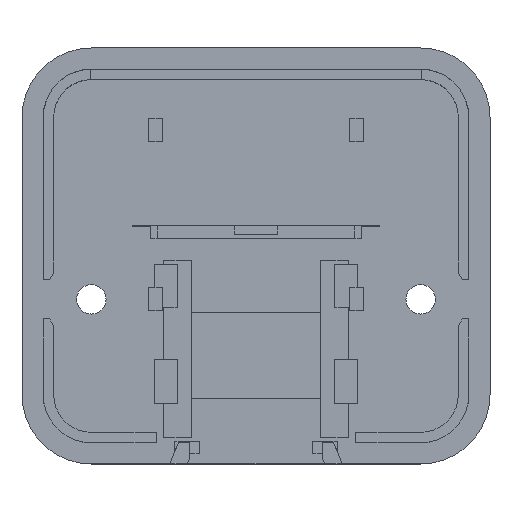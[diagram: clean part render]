
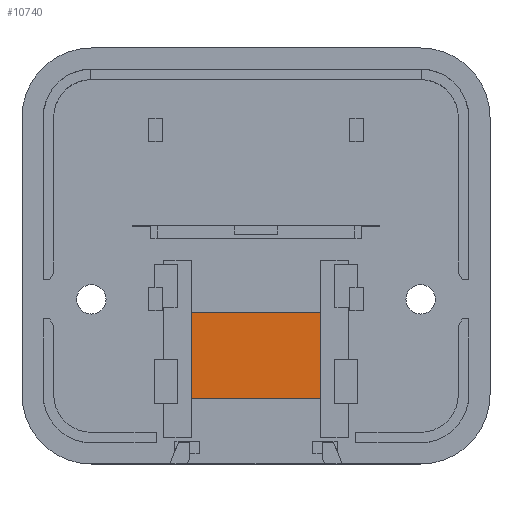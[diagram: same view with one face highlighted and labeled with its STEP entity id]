
A CAD part, top view. The second image highlights one B-rep face of the part: STEP entity #10740.
In plain terms, the highlighted planar face has unit normal (0, 0, 1).
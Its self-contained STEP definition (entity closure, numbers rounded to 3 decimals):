
#1747 = PLANE('',#1748);
#1748 = AXIS2_PLACEMENT_3D('',#1749,#1750,#1751);
#1749 = CARTESIAN_POINT('',(-7.5,-6.5,1.));
#1750 = DIRECTION('',(0.,1.,0.));
#1751 = DIRECTION('',(0.,0.,1.));
#2244 = PLANE('',#2245);
#2245 = AXIS2_PLACEMENT_3D('',#2246,#2247,#2248);
#2246 = CARTESIAN_POINT('',(-7.5,-16.5,1.));
#2247 = DIRECTION('',(0.,1.,0.));
#2248 = DIRECTION('',(0.,0.,1.));
#5702 = EDGE_CURVE('',#5703,#5705,#5707,.T.);
#5703 = VERTEX_POINT('',#5704);
#5704 = CARTESIAN_POINT('',(-7.5,-16.5,1.));
#5705 = VERTEX_POINT('',#5706);
#5706 = CARTESIAN_POINT('',(7.5,-16.5,1.));
#5707 = SURFACE_CURVE('',#5708,(#5712,#5719),.PCURVE_S1.);
#5708 = LINE('',#5709,#5710);
#5709 = CARTESIAN_POINT('',(-7.5,-16.5,1.));
#5710 = VECTOR('',#5711,1.);
#5711 = DIRECTION('',(1.,0.,0.));
#5712 = PCURVE('',#2244,#5713);
#5713 = DEFINITIONAL_REPRESENTATION('',(#5714),#5718);
#5714 = LINE('',#5715,#5716);
#5715 = CARTESIAN_POINT('',(0.,0.));
#5716 = VECTOR('',#5717,1.);
#5717 = DIRECTION('',(0.,1.));
#5718 = ( GEOMETRIC_REPRESENTATION_CONTEXT(2) 
PARAMETRIC_REPRESENTATION_CONTEXT() REPRESENTATION_CONTEXT('2D SPACE',''
  ) );
#5719 = PCURVE('',#5720,#5725);
#5720 = PLANE('',#5721);
#5721 = AXIS2_PLACEMENT_3D('',#5722,#5723,#5724);
#5722 = CARTESIAN_POINT('',(-7.5,-16.5,1.));
#5723 = DIRECTION('',(0.,0.,1.));
#5724 = DIRECTION('',(1.,0.,0.));
#5725 = DEFINITIONAL_REPRESENTATION('',(#5726),#5730);
#5726 = LINE('',#5727,#5728);
#5727 = CARTESIAN_POINT('',(0.,0.));
#5728 = VECTOR('',#5729,1.);
#5729 = DIRECTION('',(1.,0.));
#5730 = ( GEOMETRIC_REPRESENTATION_CONTEXT(2) 
PARAMETRIC_REPRESENTATION_CONTEXT() REPRESENTATION_CONTEXT('2D SPACE',''
  ) );
#5748 = PLANE('',#5749);
#5749 = AXIS2_PLACEMENT_3D('',#5750,#5751,#5752);
#5750 = CARTESIAN_POINT('',(-7.5,-16.5,1.));
#5751 = DIRECTION('',(1.,0.,0.));
#5752 = DIRECTION('',(0.,0.,1.));
#5824 = PLANE('',#5825);
#5825 = AXIS2_PLACEMENT_3D('',#5826,#5827,#5828);
#5826 = CARTESIAN_POINT('',(7.5,-16.5,1.));
#5827 = DIRECTION('',(1.,0.,0.));
#5828 = DIRECTION('',(0.,0.,1.));
#7793 = EDGE_CURVE('',#7794,#7796,#7798,.T.);
#7794 = VERTEX_POINT('',#7795);
#7795 = CARTESIAN_POINT('',(-7.5,-6.5,1.));
#7796 = VERTEX_POINT('',#7797);
#7797 = CARTESIAN_POINT('',(7.5,-6.5,1.));
#7798 = SURFACE_CURVE('',#7799,(#7803,#7810),.PCURVE_S1.);
#7799 = LINE('',#7800,#7801);
#7800 = CARTESIAN_POINT('',(-7.5,-6.5,1.));
#7801 = VECTOR('',#7802,1.);
#7802 = DIRECTION('',(1.,0.,0.));
#7803 = PCURVE('',#1747,#7804);
#7804 = DEFINITIONAL_REPRESENTATION('',(#7805),#7809);
#7805 = LINE('',#7806,#7807);
#7806 = CARTESIAN_POINT('',(0.,0.));
#7807 = VECTOR('',#7808,1.);
#7808 = DIRECTION('',(0.,1.));
#7809 = ( GEOMETRIC_REPRESENTATION_CONTEXT(2) 
PARAMETRIC_REPRESENTATION_CONTEXT() REPRESENTATION_CONTEXT('2D SPACE',''
  ) );
#7810 = PCURVE('',#5720,#7811);
#7811 = DEFINITIONAL_REPRESENTATION('',(#7812),#7816);
#7812 = LINE('',#7813,#7814);
#7813 = CARTESIAN_POINT('',(0.,10.));
#7814 = VECTOR('',#7815,1.);
#7815 = DIRECTION('',(1.,0.));
#7816 = ( GEOMETRIC_REPRESENTATION_CONTEXT(2) 
PARAMETRIC_REPRESENTATION_CONTEXT() REPRESENTATION_CONTEXT('2D SPACE',''
  ) );
#10740 = ADVANCED_FACE('',(#10741),#5720,.T.);
#10741 = FACE_BOUND('',#10742,.T.);
#10742 = EDGE_LOOP('',(#10743,#10764,#10765,#10786));
#10743 = ORIENTED_EDGE('',*,*,#10744,.F.);
#10744 = EDGE_CURVE('',#5703,#7794,#10745,.T.);
#10745 = SURFACE_CURVE('',#10746,(#10750,#10757),.PCURVE_S1.);
#10746 = LINE('',#10747,#10748);
#10747 = CARTESIAN_POINT('',(-7.5,-16.5,1.));
#10748 = VECTOR('',#10749,1.);
#10749 = DIRECTION('',(0.,1.,0.));
#10750 = PCURVE('',#5720,#10751);
#10751 = DEFINITIONAL_REPRESENTATION('',(#10752),#10756);
#10752 = LINE('',#10753,#10754);
#10753 = CARTESIAN_POINT('',(0.,0.));
#10754 = VECTOR('',#10755,1.);
#10755 = DIRECTION('',(0.,1.));
#10756 = ( GEOMETRIC_REPRESENTATION_CONTEXT(2) 
PARAMETRIC_REPRESENTATION_CONTEXT() REPRESENTATION_CONTEXT('2D SPACE',''
  ) );
#10757 = PCURVE('',#5748,#10758);
#10758 = DEFINITIONAL_REPRESENTATION('',(#10759),#10763);
#10759 = LINE('',#10760,#10761);
#10760 = CARTESIAN_POINT('',(0.,0.));
#10761 = VECTOR('',#10762,1.);
#10762 = DIRECTION('',(0.,-1.));
#10763 = ( GEOMETRIC_REPRESENTATION_CONTEXT(2) 
PARAMETRIC_REPRESENTATION_CONTEXT() REPRESENTATION_CONTEXT('2D SPACE',''
  ) );
#10764 = ORIENTED_EDGE('',*,*,#5702,.T.);
#10765 = ORIENTED_EDGE('',*,*,#10766,.T.);
#10766 = EDGE_CURVE('',#5705,#7796,#10767,.T.);
#10767 = SURFACE_CURVE('',#10768,(#10772,#10779),.PCURVE_S1.);
#10768 = LINE('',#10769,#10770);
#10769 = CARTESIAN_POINT('',(7.5,-16.5,1.));
#10770 = VECTOR('',#10771,1.);
#10771 = DIRECTION('',(0.,1.,0.));
#10772 = PCURVE('',#5720,#10773);
#10773 = DEFINITIONAL_REPRESENTATION('',(#10774),#10778);
#10774 = LINE('',#10775,#10776);
#10775 = CARTESIAN_POINT('',(15.,0.));
#10776 = VECTOR('',#10777,1.);
#10777 = DIRECTION('',(0.,1.));
#10778 = ( GEOMETRIC_REPRESENTATION_CONTEXT(2) 
PARAMETRIC_REPRESENTATION_CONTEXT() REPRESENTATION_CONTEXT('2D SPACE',''
  ) );
#10779 = PCURVE('',#5824,#10780);
#10780 = DEFINITIONAL_REPRESENTATION('',(#10781),#10785);
#10781 = LINE('',#10782,#10783);
#10782 = CARTESIAN_POINT('',(0.,0.));
#10783 = VECTOR('',#10784,1.);
#10784 = DIRECTION('',(0.,-1.));
#10785 = ( GEOMETRIC_REPRESENTATION_CONTEXT(2) 
PARAMETRIC_REPRESENTATION_CONTEXT() REPRESENTATION_CONTEXT('2D SPACE',''
  ) );
#10786 = ORIENTED_EDGE('',*,*,#7793,.F.);
